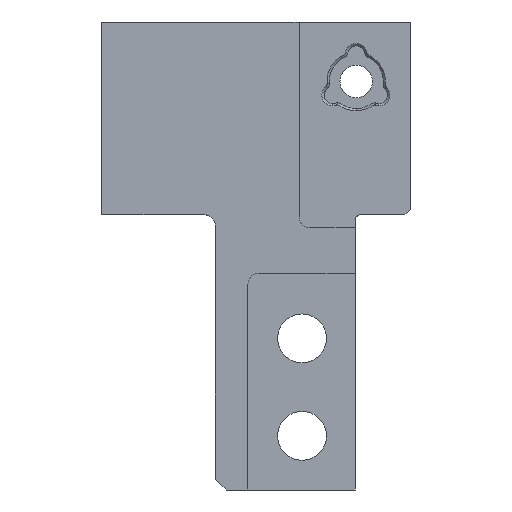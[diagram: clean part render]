
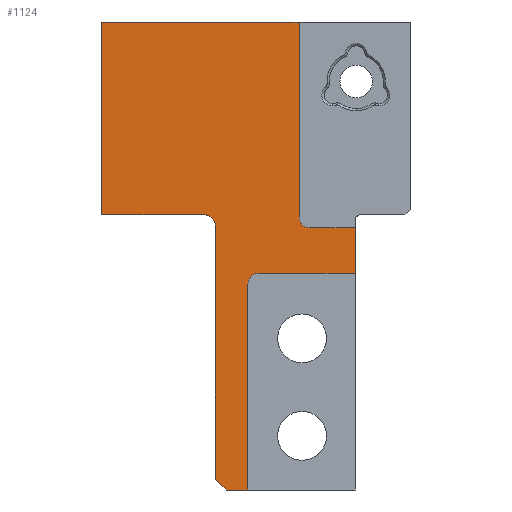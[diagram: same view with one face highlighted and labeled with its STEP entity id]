
A CAD part, front view. The second image highlights one B-rep face of the part: STEP entity #1124.
In plain terms, the highlighted planar face has unit normal (0, -1, 0).
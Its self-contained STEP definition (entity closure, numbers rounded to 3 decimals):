
#31 = VERTEX_POINT ( 'NONE', #5331 ) ;
#76 = DIRECTION ( 'NONE',  ( 0., 0., 1. ) ) ;
#236 = ORIENTED_EDGE ( 'NONE', *, *, #4684, .T. ) ;
#240 = LINE ( 'NONE', #3473, #2355 ) ;
#274 = CARTESIAN_POINT ( 'NONE',  ( -13., -10.1, -13.31 ) ) ;
#284 = LINE ( 'NONE', #2260, #3732 ) ;
#336 = EDGE_CURVE ( 'NONE', #1255, #5876, #2554, .T. ) ;
#531 = DIRECTION ( 'NONE',  ( 1., 0., 0. ) ) ;
#606 = ORIENTED_EDGE ( 'NONE', *, *, #4254, .F. ) ;
#747 = CIRCLE ( 'NONE', #2847, 1. ) ;
#898 = EDGE_CURVE ( 'NONE', #6623, #31, #3266, .T. ) ;
#920 = CARTESIAN_POINT ( 'NONE',  ( -0.1, -10.1, -17.71 ) ) ;
#926 = DIRECTION ( 'NONE',  ( 0., 0., 1. ) ) ;
#990 = CARTESIAN_POINT ( 'NONE',  ( -9., -10.1, -17.71 ) ) ;
#1026 = CARTESIAN_POINT ( 'NONE',  ( -4.28, -10.1, -13.51 ) ) ;
#1057 = DIRECTION ( 'NONE',  ( 0., -1., 0. ) ) ;
#1096 = VERTEX_POINT ( 'NONE', #1026 ) ;
#1120 = LINE ( 'NONE', #3234, #3570 ) ;
#1124 = ADVANCED_FACE ( 'NONE', ( #4732 ), #2585, .T. ) ;
#1196 = AXIS2_PLACEMENT_3D ( 'NONE', #1607, #1057, #6394 ) ;
#1223 = ORIENTED_EDGE ( 'NONE', *, *, #5786, .F. ) ;
#1255 = VERTEX_POINT ( 'NONE', #3790 ) ;
#1303 = DIRECTION ( 'NONE',  ( 0., 0., -1. ) ) ;
#1306 = CARTESIAN_POINT ( 'NONE',  ( -12., -10.1, -37.71 ) ) ;
#1308 = VECTOR ( 'NONE', #1759, 1000. ) ;
#1315 = ORIENTED_EDGE ( 'NONE', *, *, #6463, .T. ) ;
#1381 = ORIENTED_EDGE ( 'NONE', *, *, #4341, .T. ) ;
#1499 = CARTESIAN_POINT ( 'NONE',  ( -14., -10.1, -13.31 ) ) ;
#1532 = VECTOR ( 'NONE', #6708, 1000. ) ;
#1541 = CARTESIAN_POINT ( 'NONE',  ( -10.1, -10.1, -12.31 ) ) ;
#1542 = CARTESIAN_POINT ( 'NONE',  ( -9., -10.1, -18.71 ) ) ;
#1593 = VECTOR ( 'NONE', #76, 1000. ) ;
#1607 = CARTESIAN_POINT ( 'NONE',  ( 0., -10.1, 0. ) ) ;
#1616 = CIRCLE ( 'NONE', #5936, 1. ) ;
#1759 = DIRECTION ( 'NONE',  ( 0.707, 0., -0.707 ) ) ;
#1767 = CARTESIAN_POINT ( 'NONE',  ( -10., -10.1, -17.71 ) ) ;
#1788 = CARTESIAN_POINT ( 'NONE',  ( -24.855, -10.1, -24.855 ) ) ;
#1878 = EDGE_CURVE ( 'NONE', #3345, #1978, #6202, .T. ) ;
#1955 = DIRECTION ( 'NONE',  ( 0., 0., -1. ) ) ;
#1978 = VERTEX_POINT ( 'NONE', #2627 ) ;
#2024 = CARTESIAN_POINT ( 'NONE',  ( -4.28, -10.1, -12.51 ) ) ;
#2260 = CARTESIAN_POINT ( 'NONE',  ( -5.28, -10.1, -13.51 ) ) ;
#2266 = VERTEX_POINT ( 'NONE', #920 ) ;
#2355 = VECTOR ( 'NONE', #3947, 1000. ) ;
#2385 = ORIENTED_EDGE ( 'NONE', *, *, #336, .F. ) ;
#2412 = LINE ( 'NONE', #5674, #1532 ) ;
#2441 = VERTEX_POINT ( 'NONE', #990 ) ;
#2554 = LINE ( 'NONE', #4189, #4091 ) ;
#2581 = VECTOR ( 'NONE', #3295, 1000. ) ;
#2585 = PLANE ( 'NONE',  #1196 ) ;
#2627 = CARTESIAN_POINT ( 'NONE',  ( -5.28, -10.1, 5.49 ) ) ;
#2638 = ORIENTED_EDGE ( 'NONE', *, *, #1878, .T. ) ;
#2673 = CARTESIAN_POINT ( 'NONE',  ( -10., -10.1, -37.71 ) ) ;
#2847 = AXIS2_PLACEMENT_3D ( 'NONE', #2024, #4144, #1955 ) ;
#2906 = VECTOR ( 'NONE', #531, 1000. ) ;
#2948 = ORIENTED_EDGE ( 'NONE', *, *, #5987, .F. ) ;
#2949 = EDGE_CURVE ( 'NONE', #1255, #3985, #3355, .T. ) ;
#2959 = LINE ( 'NONE', #3989, #3257 ) ;
#2987 = ORIENTED_EDGE ( 'NONE', *, *, #3393, .F. ) ;
#3031 = EDGE_CURVE ( 'NONE', #1978, #31, #2412, .T. ) ;
#3065 = DIRECTION ( 'NONE',  ( 0., 0., -1. ) ) ;
#3079 = AXIS2_PLACEMENT_3D ( 'NONE', #1499, #3514, #3065 ) ;
#3179 = ORIENTED_EDGE ( 'NONE', *, *, #4919, .T. ) ;
#3234 = CARTESIAN_POINT ( 'NONE',  ( -0.1, -10.1, -37.71 ) ) ;
#3257 = VECTOR ( 'NONE', #3478, 1000. ) ;
#3261 = LINE ( 'NONE', #1767, #2581 ) ;
#3266 = LINE ( 'NONE', #5283, #1593 ) ;
#3295 = DIRECTION ( 'NONE',  ( 0., 0., -1. ) ) ;
#3345 = VERTEX_POINT ( 'NONE', #3614 ) ;
#3355 = LINE ( 'NONE', #1788, #1308 ) ;
#3393 = EDGE_CURVE ( 'NONE', #5327, #3985, #2959, .T. ) ;
#3446 = EDGE_LOOP ( 'NONE', ( #606, #236, #2638, #5797, #4033, #6133, #1381, #2385, #4478, #2987, #1223, #3179, #2948, #1315 ) ) ;
#3473 = CARTESIAN_POINT ( 'NONE',  ( -0.1, -10.1, -17.71 ) ) ;
#3478 = DIRECTION ( 'NONE',  ( -1., 0., 0. ) ) ;
#3514 = DIRECTION ( 'NONE',  ( 0., 1., 0. ) ) ;
#3533 = CARTESIAN_POINT ( 'NONE',  ( -5.28, -10.1, 5.49 ) ) ;
#3570 = VECTOR ( 'NONE', #5768, 1000. ) ;
#3614 = CARTESIAN_POINT ( 'NONE',  ( -5.28, -10.1, -12.51 ) ) ;
#3694 = DIRECTION ( 'NONE',  ( 0., 0., 1. ) ) ;
#3732 = VECTOR ( 'NONE', #6631, 1000. ) ;
#3790 = CARTESIAN_POINT ( 'NONE',  ( -13., -10.1, -36.71 ) ) ;
#3944 = VERTEX_POINT ( 'NONE', #6017 ) ;
#3947 = DIRECTION ( 'NONE',  ( -1., 0., 0. ) ) ;
#3983 = CARTESIAN_POINT ( 'NONE',  ( -0.1, -10.1, -13.51 ) ) ;
#3985 = VERTEX_POINT ( 'NONE', #1306 ) ;
#3989 = CARTESIAN_POINT ( 'NONE',  ( -0.1, -10.1, -37.71 ) ) ;
#4033 = ORIENTED_EDGE ( 'NONE', *, *, #898, .F. ) ;
#4091 = VECTOR ( 'NONE', #3694, 1000. ) ;
#4144 = DIRECTION ( 'NONE',  ( 0., 1., 0. ) ) ;
#4189 = CARTESIAN_POINT ( 'NONE',  ( -13., -10.1, -37.71 ) ) ;
#4254 = EDGE_CURVE ( 'NONE', #1096, #5968, #284, .T. ) ;
#4341 = EDGE_CURVE ( 'NONE', #6239, #5876, #6056, .T. ) ;
#4478 = ORIENTED_EDGE ( 'NONE', *, *, #2949, .T. ) ;
#4684 = EDGE_CURVE ( 'NONE', #1096, #3345, #747, .T. ) ;
#4732 = FACE_OUTER_BOUND ( 'NONE', #3446, .T. ) ;
#4919 = EDGE_CURVE ( 'NONE', #3944, #2441, #1616, .T. ) ;
#5283 = CARTESIAN_POINT ( 'NONE',  ( -23.5, -10.1, 5.49 ) ) ;
#5327 = VERTEX_POINT ( 'NONE', #2673 ) ;
#5331 = CARTESIAN_POINT ( 'NONE',  ( -23.5, -10.1, 5.49 ) ) ;
#5388 = VECTOR ( 'NONE', #926, 1000. ) ;
#5398 = CARTESIAN_POINT ( 'NONE',  ( -14., -10.1, -12.31 ) ) ;
#5430 = DIRECTION ( 'NONE',  ( 0., 1., 0. ) ) ;
#5674 = CARTESIAN_POINT ( 'NONE',  ( -11.193, -10.1, 5.49 ) ) ;
#5768 = DIRECTION ( 'NONE',  ( 0., 0., 1. ) ) ;
#5786 = EDGE_CURVE ( 'NONE', #3944, #5327, #3261, .T. ) ;
#5797 = ORIENTED_EDGE ( 'NONE', *, *, #3031, .T. ) ;
#5834 = LINE ( 'NONE', #1541, #2906 ) ;
#5876 = VERTEX_POINT ( 'NONE', #274 ) ;
#5936 = AXIS2_PLACEMENT_3D ( 'NONE', #1542, #5430, #1303 ) ;
#5968 = VERTEX_POINT ( 'NONE', #3983 ) ;
#5987 = EDGE_CURVE ( 'NONE', #2266, #2441, #240, .T. ) ;
#6017 = CARTESIAN_POINT ( 'NONE',  ( -10., -10.1, -18.71 ) ) ;
#6056 = CIRCLE ( 'NONE', #3079, 1. ) ;
#6092 = CARTESIAN_POINT ( 'NONE',  ( -23.5, -10.1, -12.31 ) ) ;
#6133 = ORIENTED_EDGE ( 'NONE', *, *, #6489, .T. ) ;
#6202 = LINE ( 'NONE', #3533, #5388 ) ;
#6239 = VERTEX_POINT ( 'NONE', #5398 ) ;
#6394 = DIRECTION ( 'NONE',  ( 0., 0., -1. ) ) ;
#6463 = EDGE_CURVE ( 'NONE', #2266, #5968, #1120, .T. ) ;
#6489 = EDGE_CURVE ( 'NONE', #6623, #6239, #5834, .T. ) ;
#6623 = VERTEX_POINT ( 'NONE', #6092 ) ;
#6631 = DIRECTION ( 'NONE',  ( 1., 0., 0. ) ) ;
#6708 = DIRECTION ( 'NONE',  ( -1., 0., 0. ) ) ;
